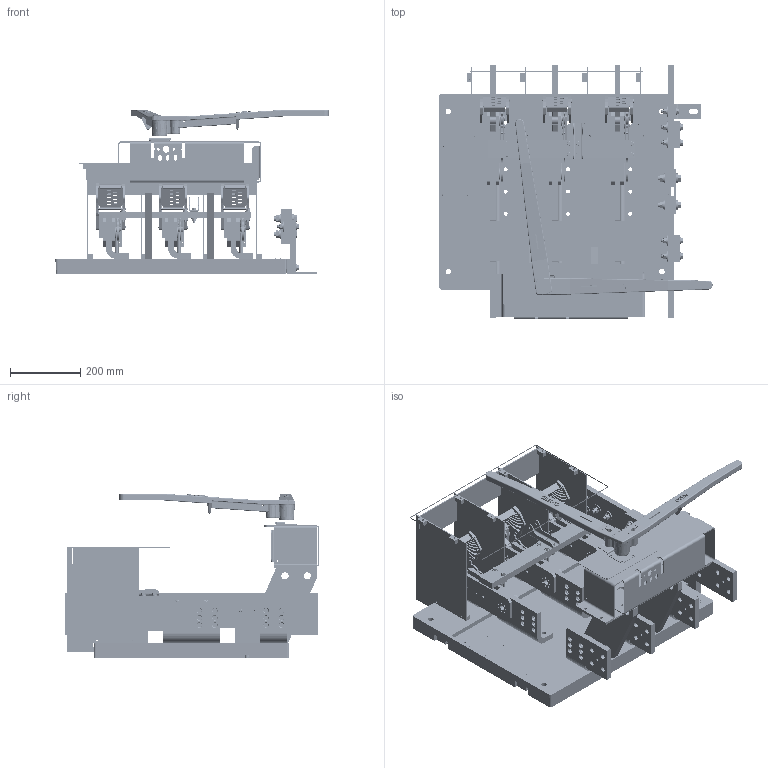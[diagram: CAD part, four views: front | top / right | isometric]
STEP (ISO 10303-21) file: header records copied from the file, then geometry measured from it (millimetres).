
FILE_DESCRIPTION(/* description */ (''),/* implementation_level */ '2;1');
FILE_NAME(/* name */ 'H:\switches\3d-templates\catalog-switches-iges-files\CATALOG-VL4611N.stp',/* time_stamp */ '2022-03-23T15:06:47-05:00',/* author */ ('MKingston'),/* organization */ (''),/* preprocessor_version */ 'ST-DEVELOPER v18.1',/* originating_system */ 'Autodesk Inventor 2022',/* authorisation */ '');
FILE_SCHEMA (('AUTOMOTIVE_DESIGN { 1 0 10303 214 3 1 1 }'));
Products named in the file (69): CATALOG-VL3611; 277; 670-D; 670-c; 670-E; CATALOG-2500amp-blade-assy; 67-fc3; 69-gc3; 670-AR; 670-AL; 70-M; 67-H; 67-j; ANSI/ASME B18.7 - T 0.252 x 17/32; ANSI/ASME B18.7 - T 0.188 x 17/32; 235-b; 230-a; CATALOG-58-qd-arc-chute-assy; 50-ql; 50-qr; 363-a; 363-b; 58-QG; ANSI B18.6.3 - No. 8 - 32 - 5/8; ANSI B18.6.3 - No. 8 - 32 - 1/2; ANSI B18.6.3 - No. 8 - 32 - 3; 255-z; 246-a; 820-bw1; 820-fw3; 221-RP,R3; 255-bha; 255-c; 178-c; 178-b; 2500-VL-NEUTRAL-NO-GFI; 675-a; 675-ff; 676-k; 677-e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
Assembly tree (184 placements, depth 4):
  CATALOG-VL3611
    277
    670-D  x3
    670-c  x3
    670-E  x3
    CATALOG-2500amp-blade-assy  x3
      67-fc3
      69-gc3
      67-j
      670-AR
      670-AL
      70-M
      67-H
      ANSI/ASME B18.7 - T 0.252 x 17/32
      ANSI/ASME B18.7 - T 0.188 x 17/32
    235-b
    230-a
    CATALOG-58-qd-arc-chute-assy  x3
      50-ql
      50-qr
      363-a
      363-b
      58-QG
      ANSI B18.6.3 - No. 8 - 32 - 5/8
      ANSI B18.6.3 - No. 8 - 32 - 1/2
      ANSI B18.6.3 - No. 8 - 32 - 3
    255-bha  x4
    255-z
    246-a  x2
    820-bw1
    820-fw3
    221-RP,R3
    255-c
    178-c  x8
    178-b  x8
    2500-VL-NEUTRAL-NO-GFI
      675-a  x2
      675-ff  x2
      676-k  x4
      677-e  x2
      678-r
      Bolted Connection
        ASTM F436 - 1/2, CW  x8
        ANSI B18.2.1 - 1/2-13 UNC - 2.25, HCSI  x4
        ASME B18.21.1 - 1/2, RHSLW  x4
        AS 2465 - 1/2  UNC  x4
      Bolted Connection_1
        ASTM F436 - 3/8, CW  x4
        ANSI B18.2.1 - 3/8-16 UNC - 2.25, HCSI  x4
        ANSI B18.22.1 - 3/8 - wide - Type B  x4
        ANSI B18.21.1 - 0.375  x4
        ANSI B18.2.2 - 3/8 - 16, HNI  x4
      Bolted Connection_2
        ASTM F436 - 3/8, CW
        ANSI B18.2.1 - 3/8-16 UNC - 1.75, HCSI
        ANSI B18.22.1 - 3/8 - wide - Type B
        ANSI B18.21.1 - 0.375
        ANSI B18.2.2 - 3/8 - 16, HNI
    672-ha
    277-BP  x2
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Bounding box: 779.41 x 726.77 x 469.37 mm (x, y, z)
Volume: 18602263.2 mm3; surface area: 4525882.7 mm2
Topology: 225 solids, 226 shells, 6527 faces, 16269 edges, 10518 vertices
Faces by surface type: plane 3148, cylinder 1979, cone 1044, torus 190, bspline 139, sphere 27
Full cylindrical faces by diameter (mm): 1.702 x8, 3.175 x4, 3.302 x26, 3.454 x4, 3.683 x8, 3.962 x4, 4.166 x15, 4.496 x24, 4.762 x46, 4.775 x11, 4.801 x8, 4.902 x14, 4.915 x24, 4.978 x11, 5.556 x3, 5.791 x6, 6.35 x12, 6.401 x9, 6.528 x54, 6.604 x8, 7.137 x10, 7.144 x18, 7.798 x11, 7.938 x6, 8.077 x3, 8.179 x15, 8.331 x2, 8.731 x2, 9.525 x11, 9.601 x2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
Entity records: 102361 total; most frequent: CARTESIAN_POINT 25482, DIRECTION 15762, ORIENTED_EDGE 15140, EDGE_CURVE 7578, AXIS2_PLACEMENT_3D 5814, VERTEX_POINT 4928, LINE 4134, VECTOR 4134
